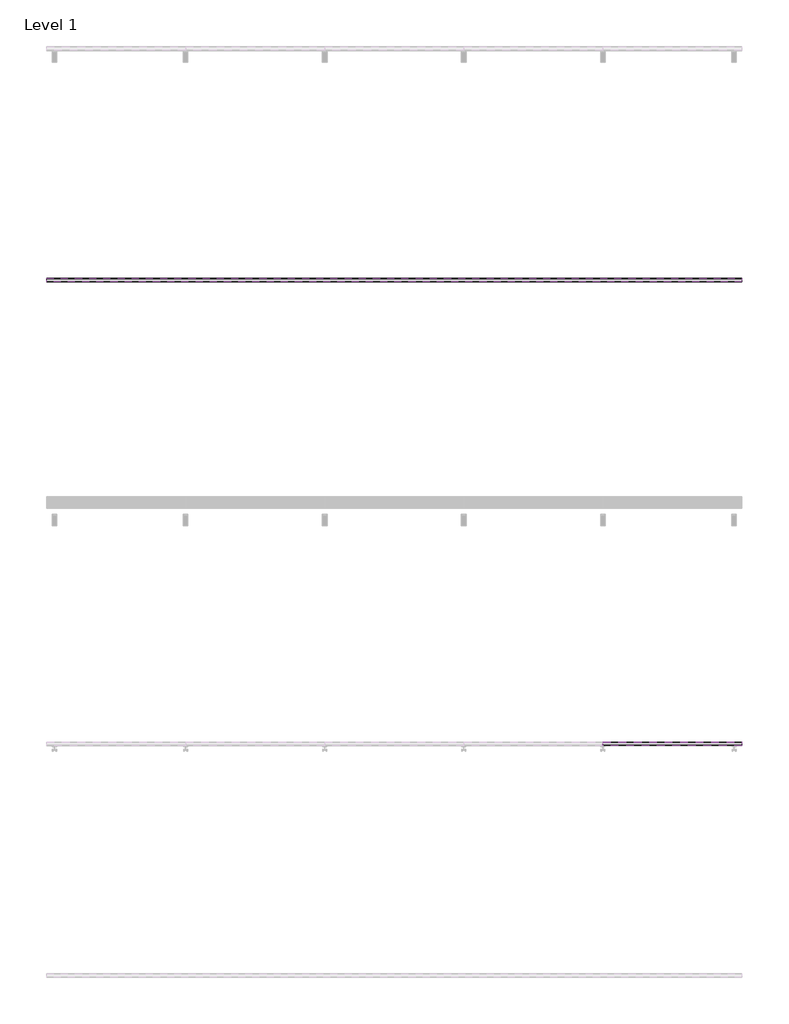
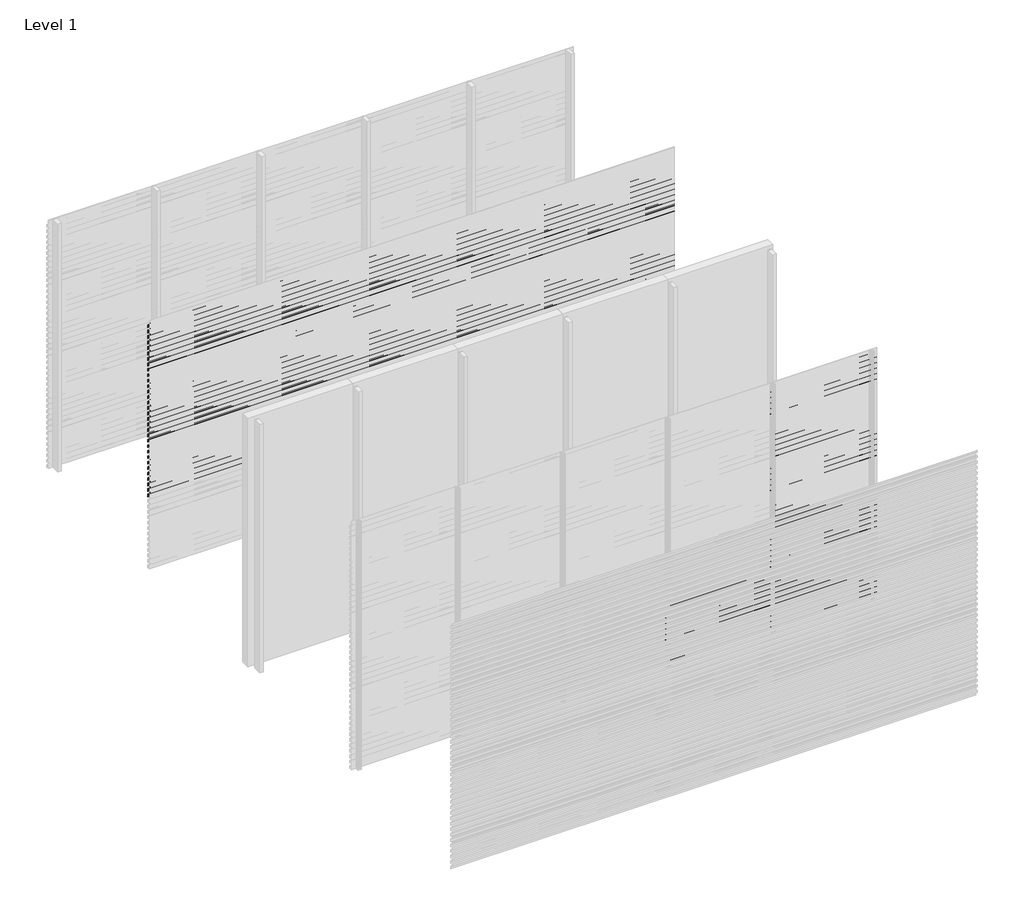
# One storey, part 12 of 33: 88 proxies.
"""IFC4 building model written with IfcOpenShell, lengths in millimetres."""

from ifc_helpers import new_model, si_unit, frame, origin, place, context, project, spatial, polyline, outline, extrude, element, save

model = new_model("IFC4")

# Units and contexts
model_context = context("Model", 3, world=origin())
ifc_project = project(units=[si_unit("LENGTHUNIT", "METRE", prefix="MILLI")], contexts=[model_context])

# Site, building, storey
site = spatial("IfcSite", under=ifc_project)
building = spatial("IfcBuilding", under=site)
storey = spatial("IfcBuildingStorey", under=building, Name="Level 1", Elevation=0.0)

# Proxies
placement = place(None, origin())
element("IfcBuildingElementProxy", 1, Name="Wall Sweeps", at=placement, inside=storey, context=model_context, shape_type="SweptSolid", body=[
    extrude(outline(polyline([(-37967.0, 2930.0), (-37967.0, 2897.0), (-37968.25, 2897.7216933), (-37968.25, 2929.2872415), (-37998.0, 2950.0588647), (-37998.0, 2970.0), (-37996.75, 2970.0), (-37996.75, 2950.7716232), (-37967.0, 2930.0)])), frame((0.0, 0.0, 0.0), z_axis=(1.0, 0.0, 0.0), x_axis=(0.0, 1.0, 0.0)), (0.0, 0.0, 1.0), 6000.0),
])
element("IfcBuildingElementProxy", 2, Name="Wall Sweeps", at=placement, inside=storey, context=model_context, shape_type="SweptSolid", body=[
    extrude(outline(polyline([(-37967.0, 2864.0), (-37967.0, 2831.0), (-37968.25, 2831.7216933), (-37968.25, 2863.2872415), (-37998.0, 2884.0588647), (-37998.0, 2904.0), (-37996.75, 2904.0), (-37996.75, 2884.7716232), (-37967.0, 2864.0)])), frame((0.0, 0.0, 0.0), z_axis=(1.0, 0.0, 0.0), x_axis=(0.0, 1.0, 0.0)), (0.0, 0.0, 1.0), 6000.0),
])
element("IfcBuildingElementProxy", 3, Name="Wall Sweeps", at=placement, inside=storey, context=model_context, shape_type="SweptSolid", body=[
    extrude(outline(polyline([(-37967.0, 2798.0), (-37967.0, 2765.0), (-37968.25, 2765.7216933), (-37968.25, 2797.2872415), (-37998.0, 2818.0588647), (-37998.0, 2838.0), (-37996.75, 2838.0), (-37996.75, 2818.7716232), (-37967.0, 2798.0)])), frame((0.0, 0.0, 0.0), z_axis=(1.0, 0.0, 0.0), x_axis=(0.0, 1.0, 0.0)), (0.0, 0.0, 1.0), 6000.0),
])
element("IfcBuildingElementProxy", 4, Name="Wall Sweeps", at=placement, inside=storey, context=model_context, shape_type="SweptSolid", body=[
    extrude(outline(polyline([(-37967.0, 2732.0), (-37967.0, 2699.0), (-37968.25, 2699.7216933), (-37968.25, 2731.2872415), (-37998.0, 2752.0588647), (-37998.0, 2772.0), (-37996.75, 2772.0), (-37996.75, 2752.7716232), (-37967.0, 2732.0)])), frame((0.0, 0.0, 0.0), z_axis=(1.0, 0.0, 0.0), x_axis=(0.0, 1.0, 0.0)), (0.0, 0.0, 1.0), 6000.0),
])
element("IfcBuildingElementProxy", 5, Name="Wall Sweeps", at=placement, inside=storey, context=model_context, shape_type="SweptSolid", body=[
    extrude(outline(polyline([(-37967.0, 2666.0), (-37967.0, 2633.0), (-37968.25, 2633.7216933), (-37968.25, 2665.2872415), (-37998.0, 2686.0588647), (-37998.0, 2706.0), (-37996.75, 2706.0), (-37996.75, 2686.7716232), (-37967.0, 2666.0)])), frame((0.0, 0.0, 0.0), z_axis=(1.0, 0.0, 0.0), x_axis=(0.0, 1.0, 0.0)), (0.0, 0.0, 1.0), 6000.0),
])
element("IfcBuildingElementProxy", 6, Name="Wall Sweeps", at=placement, inside=storey, context=model_context, shape_type="SweptSolid", body=[
    extrude(outline(polyline([(-37967.0, 2600.0), (-37967.0, 2567.0), (-37968.25, 2567.7216933), (-37968.25, 2599.2872415), (-37998.0, 2620.0588647), (-37998.0, 2640.0), (-37996.75, 2640.0), (-37996.75, 2620.7716232), (-37967.0, 2600.0)])), frame((0.0, 0.0, 0.0), z_axis=(1.0, 0.0, 0.0), x_axis=(0.0, 1.0, 0.0)), (0.0, 0.0, 1.0), 6000.0),
])
element("IfcBuildingElementProxy", 7, Name="Wall Sweeps", at=placement, inside=storey, context=model_context, shape_type="SweptSolid", body=[
    extrude(outline(polyline([(-37967.0, 2534.0), (-37967.0, 2501.0), (-37968.25, 2501.7216933), (-37968.25, 2533.2872415), (-37998.0, 2554.0588647), (-37998.0, 2574.0), (-37996.75, 2574.0), (-37996.75, 2554.7716232), (-37967.0, 2534.0)])), frame((0.0, 0.0, 0.0), z_axis=(1.0, 0.0, 0.0), x_axis=(0.0, 1.0, 0.0)), (0.0, 0.0, 1.0), 6000.0),
])
element("IfcBuildingElementProxy", 8, Name="Wall Sweeps", at=placement, inside=storey, context=model_context, shape_type="SweptSolid", body=[
    extrude(outline(polyline([(-37967.0, 2468.0), (-37967.0, 2435.0), (-37968.25, 2435.7216933), (-37968.25, 2467.2872415), (-37998.0, 2488.0588647), (-37998.0, 2508.0), (-37996.75, 2508.0), (-37996.75, 2488.7716232), (-37967.0, 2468.0)])), frame((0.0, 0.0, 0.0), z_axis=(1.0, 0.0, 0.0), x_axis=(0.0, 1.0, 0.0)), (0.0, 0.0, 1.0), 6000.0),
])
element("IfcBuildingElementProxy", 9, Name="Wall Sweeps", at=placement, inside=storey, context=model_context, shape_type="SweptSolid", body=[
    extrude(outline(polyline([(-37967.0, 2402.0), (-37967.0, 2369.0), (-37968.25, 2369.7216933), (-37968.25, 2401.2872415), (-37998.0, 2422.0588647), (-37998.0, 2442.0), (-37996.75, 2442.0), (-37996.75, 2422.7716232), (-37967.0, 2402.0)])), frame((0.0, 0.0, 0.0), z_axis=(1.0, 0.0, 0.0), x_axis=(0.0, 1.0, 0.0)), (0.0, 0.0, 1.0), 6000.0),
])
element("IfcBuildingElementProxy", 10, Name="Wall Sweeps", at=placement, inside=storey, context=model_context, shape_type="SweptSolid", body=[
    extrude(outline(polyline([(-37967.0, 2336.0), (-37967.0, 2303.0), (-37968.25, 2303.7216933), (-37968.25, 2335.2872415), (-37998.0, 2356.0588647), (-37998.0, 2376.0), (-37996.75, 2376.0), (-37996.75, 2356.7716232), (-37967.0, 2336.0)])), frame((0.0, 0.0, 0.0), z_axis=(1.0, 0.0, 0.0), x_axis=(0.0, 1.0, 0.0)), (0.0, 0.0, 1.0), 6000.0),
])
element("IfcBuildingElementProxy", 11, Name="Wall Sweeps", at=placement, inside=storey, context=model_context, shape_type="SweptSolid", body=[
    extrude(outline(polyline([(-37967.0, 2270.0), (-37967.0, 2237.0), (-37968.25, 2237.7216933), (-37968.25, 2269.2872415), (-37998.0, 2290.0588647), (-37998.0, 2310.0), (-37996.75, 2310.0), (-37996.75, 2290.7716232), (-37967.0, 2270.0)])), frame((0.0, 0.0, 0.0), z_axis=(1.0, 0.0, 0.0), x_axis=(0.0, 1.0, 0.0)), (0.0, 0.0, 1.0), 6000.0),
])
element("IfcBuildingElementProxy", 12, Name="Wall Sweeps", at=placement, inside=storey, context=model_context, shape_type="SweptSolid", body=[
    extrude(outline(polyline([(-37967.0, 2204.0), (-37967.0, 2171.0), (-37968.25, 2171.7216933), (-37968.25, 2203.2872415), (-37998.0, 2224.0588647), (-37998.0, 2244.0), (-37996.75, 2244.0), (-37996.75, 2224.7716232), (-37967.0, 2204.0)])), frame((0.0, 0.0, 0.0), z_axis=(1.0, 0.0, 0.0), x_axis=(0.0, 1.0, 0.0)), (0.0, 0.0, 1.0), 6000.0),
])
element("IfcBuildingElementProxy", 13, Name="Wall Sweeps", at=placement, inside=storey, context=model_context, shape_type="SweptSolid", body=[
    extrude(outline(polyline([(-37967.0, 2138.0), (-37967.0, 2105.0), (-37968.25, 2105.7216933), (-37968.25, 2137.2872415), (-37998.0, 2158.0588647), (-37998.0, 2178.0), (-37996.75, 2178.0), (-37996.75, 2158.7716232), (-37967.0, 2138.0)])), frame((0.0, 0.0, 0.0), z_axis=(1.0, 0.0, 0.0), x_axis=(0.0, 1.0, 0.0)), (0.0, 0.0, 1.0), 6000.0),
])
element("IfcBuildingElementProxy", 14, Name="Wall Sweeps", at=placement, inside=storey, context=model_context, shape_type="SweptSolid", body=[
    extrude(outline(polyline([(-37967.0, 2072.0), (-37967.0, 2039.0), (-37968.25, 2039.7216933), (-37968.25, 2071.2872415), (-37998.0, 2092.0588647), (-37998.0, 2112.0), (-37996.75, 2112.0), (-37996.75, 2092.7716232), (-37967.0, 2072.0)])), frame((0.0, 0.0, 0.0), z_axis=(1.0, 0.0, 0.0), x_axis=(0.0, 1.0, 0.0)), (0.0, 0.0, 1.0), 6000.0),
])
element("IfcBuildingElementProxy", 15, Name="Wall Sweeps", at=placement, inside=storey, context=model_context, shape_type="SweptSolid", body=[
    extrude(outline(polyline([(-37967.0, 2006.0), (-37967.0, 1973.0), (-37968.25, 1973.7216933), (-37968.25, 2005.2872415), (-37998.0, 2026.0588647), (-37998.0, 2046.0), (-37996.75, 2046.0), (-37996.75, 2026.7716232), (-37967.0, 2006.0)])), frame((0.0, 0.0, 0.0), z_axis=(1.0, 0.0, 0.0), x_axis=(0.0, 1.0, 0.0)), (0.0, 0.0, 1.0), 6000.0),
])
element("IfcBuildingElementProxy", 16, Name="Wall Sweeps", at=placement, inside=storey, context=model_context, shape_type="SweptSolid", body=[
    extrude(outline(polyline([(-37967.0, 1940.0), (-37967.0, 1907.0), (-37968.25, 1907.7216933), (-37968.25, 1939.2872415), (-37998.0, 1960.0588647), (-37998.0, 1980.0), (-37996.75, 1980.0), (-37996.75, 1960.7716232), (-37967.0, 1940.0)])), frame((0.0, 0.0, 0.0), z_axis=(1.0, 0.0, 0.0), x_axis=(0.0, 1.0, 0.0)), (0.0, 0.0, 1.0), 6000.0),
])
element("IfcBuildingElementProxy", 17, Name="Wall Sweeps", at=placement, inside=storey, context=model_context, shape_type="SweptSolid", body=[
    extrude(outline(polyline([(-37967.0, 1874.0), (-37967.0, 1841.0), (-37968.25, 1841.7216933), (-37968.25, 1873.2872415), (-37998.0, 1894.0588647), (-37998.0, 1914.0), (-37996.75, 1914.0), (-37996.75, 1894.7716232), (-37967.0, 1874.0)])), frame((0.0, 0.0, 0.0), z_axis=(1.0, 0.0, 0.0), x_axis=(0.0, 1.0, 0.0)), (0.0, 0.0, 1.0), 6000.0),
])
element("IfcBuildingElementProxy", 18, Name="Wall Sweeps", at=placement, inside=storey, context=model_context, shape_type="SweptSolid", body=[
    extrude(outline(polyline([(-37967.0, 1808.0), (-37967.0, 1775.0), (-37968.25, 1775.7216933), (-37968.25, 1807.2872415), (-37998.0, 1828.0588647), (-37998.0, 1848.0), (-37996.75, 1848.0), (-37996.75, 1828.7716232), (-37967.0, 1808.0)])), frame((0.0, 0.0, 0.0), z_axis=(1.0, 0.0, 0.0), x_axis=(0.0, 1.0, 0.0)), (0.0, 0.0, 1.0), 6000.0),
])
element("IfcBuildingElementProxy", 19, Name="Wall Sweeps", at=placement, inside=storey, context=model_context, shape_type="SweptSolid", body=[
    extrude(outline(polyline([(-37967.0, 1742.0), (-37967.0, 1709.0), (-37968.25, 1709.7216933), (-37968.25, 1741.2872415), (-37998.0, 1762.0588647), (-37998.0, 1782.0), (-37996.75, 1782.0), (-37996.75, 1762.7716232), (-37967.0, 1742.0)])), frame((0.0, 0.0, 0.0), z_axis=(1.0, 0.0, 0.0), x_axis=(0.0, 1.0, 0.0)), (0.0, 0.0, 1.0), 6000.0),
])
element("IfcBuildingElementProxy", 20, Name="Wall Sweeps", at=placement, inside=storey, context=model_context, shape_type="SweptSolid", body=[
    extrude(outline(polyline([(-37967.0, 1676.0), (-37967.0, 1643.0), (-37968.25, 1643.7216933), (-37968.25, 1675.2872415), (-37998.0, 1696.0588647), (-37998.0, 1716.0), (-37996.75, 1716.0), (-37996.75, 1696.7716232), (-37967.0, 1676.0)])), frame((0.0, 0.0, 0.0), z_axis=(1.0, 0.0, 0.0), x_axis=(0.0, 1.0, 0.0)), (0.0, 0.0, 1.0), 6000.0),
])
element("IfcBuildingElementProxy", 21, Name="Wall Sweeps", at=placement, inside=storey, context=model_context, shape_type="SweptSolid", body=[
    extrude(outline(polyline([(-37967.0, 1610.0), (-37967.0, 1577.0), (-37968.25, 1577.7216933), (-37968.25, 1609.2872415), (-37998.0, 1630.0588647), (-37998.0, 1650.0), (-37996.75, 1650.0), (-37996.75, 1630.7716232), (-37967.0, 1610.0)])), frame((0.0, 0.0, 0.0), z_axis=(1.0, 0.0, 0.0), x_axis=(0.0, 1.0, 0.0)), (0.0, 0.0, 1.0), 6000.0),
])
element("IfcBuildingElementProxy", 22, Name="Wall Sweeps", at=placement, inside=storey, context=model_context, shape_type="SweptSolid", body=[
    extrude(outline(polyline([(-37967.0, 1544.0), (-37967.0, 1511.0), (-37968.25, 1511.7216933), (-37968.25, 1543.2872415), (-37998.0, 1564.0588647), (-37998.0, 1584.0), (-37996.75, 1584.0), (-37996.75, 1564.7716232), (-37967.0, 1544.0)])), frame((0.0, 0.0, 0.0), z_axis=(1.0, 0.0, 0.0), x_axis=(0.0, 1.0, 0.0)), (0.0, 0.0, 1.0), 6000.0),
])
element("IfcBuildingElementProxy", 23, Name="Wall Sweeps", at=placement, inside=storey, context=model_context, shape_type="SweptSolid", body=[
    extrude(outline(polyline([(-37967.0, 1478.0), (-37967.0, 1445.0), (-37968.25, 1445.7216933), (-37968.25, 1477.2872415), (-37998.0, 1498.0588647), (-37998.0, 1518.0), (-37996.75, 1518.0), (-37996.75, 1498.7716232), (-37967.0, 1478.0)])), frame((0.0, 0.0, 0.0), z_axis=(1.0, 0.0, 0.0), x_axis=(0.0, 1.0, 0.0)), (0.0, 0.0, 1.0), 6000.0),
])
element("IfcBuildingElementProxy", 24, Name="Wall Sweeps", at=placement, inside=storey, context=model_context, shape_type="SweptSolid", body=[
    extrude(outline(polyline([(-37967.0, 1412.0), (-37967.0, 1379.0), (-37968.25, 1379.7216933), (-37968.25, 1411.2872415), (-37998.0, 1432.0588647), (-37998.0, 1452.0), (-37996.75, 1452.0), (-37996.75, 1432.7716232), (-37967.0, 1412.0)])), frame((0.0, 0.0, 0.0), z_axis=(1.0, 0.0, 0.0), x_axis=(0.0, 1.0, 0.0)), (0.0, 0.0, 1.0), 6000.0),
])
element("IfcBuildingElementProxy", 25, Name="Wall Sweeps", at=placement, inside=storey, context=model_context, shape_type="SweptSolid", body=[
    extrude(outline(polyline([(-37967.0, 1346.0), (-37967.0, 1313.0), (-37968.25, 1313.7216933), (-37968.25, 1345.2872415), (-37998.0, 1366.0588647), (-37998.0, 1386.0), (-37996.75, 1386.0), (-37996.75, 1366.7716232), (-37967.0, 1346.0)])), frame((0.0, 0.0, 0.0), z_axis=(1.0, 0.0, 0.0), x_axis=(0.0, 1.0, 0.0)), (0.0, 0.0, 1.0), 6000.0),
])
element("IfcBuildingElementProxy", 26, Name="Wall Sweeps", at=placement, inside=storey, context=model_context, shape_type="SweptSolid", body=[
    extrude(outline(polyline([(-37967.0, 1280.0), (-37967.0, 1247.0), (-37968.25, 1247.7216933), (-37968.25, 1279.2872415), (-37998.0, 1300.0588647), (-37998.0, 1320.0), (-37996.75, 1320.0), (-37996.75, 1300.7716232), (-37967.0, 1280.0)])), frame((0.0, 0.0, 0.0), z_axis=(1.0, 0.0, 0.0), x_axis=(0.0, 1.0, 0.0)), (0.0, 0.0, 1.0), 6000.0),
])
element("IfcBuildingElementProxy", 27, Name="Wall Sweeps", at=placement, inside=storey, context=model_context, shape_type="SweptSolid", body=[
    extrude(outline(polyline([(-37967.0, 1214.0), (-37967.0, 1181.0), (-37968.25, 1181.7216933), (-37968.25, 1213.2872415), (-37998.0, 1234.0588647), (-37998.0, 1254.0), (-37996.75, 1254.0), (-37996.75, 1234.7716232), (-37967.0, 1214.0)])), frame((0.0, 0.0, 0.0), z_axis=(1.0, 0.0, 0.0), x_axis=(0.0, 1.0, 0.0)), (0.0, 0.0, 1.0), 6000.0),
])
element("IfcBuildingElementProxy", 28, Name="Wall Sweeps", at=placement, inside=storey, context=model_context, shape_type="SweptSolid", body=[
    extrude(outline(polyline([(-37967.0, 1148.0), (-37967.0, 1115.0), (-37968.25, 1115.7216933), (-37968.25, 1147.2872415), (-37998.0, 1168.0588647), (-37998.0, 1188.0), (-37996.75, 1188.0), (-37996.75, 1168.7716232), (-37967.0, 1148.0)])), frame((0.0, 0.0, 0.0), z_axis=(1.0, 0.0, 0.0), x_axis=(0.0, 1.0, 0.0)), (0.0, 0.0, 1.0), 6000.0),
])
element("IfcBuildingElementProxy", 29, Name="Wall Sweeps", at=placement, inside=storey, context=model_context, shape_type="SweptSolid", body=[
    extrude(outline(polyline([(-37967.0, 1082.0), (-37967.0, 1049.0), (-37968.25, 1049.7216933), (-37968.25, 1081.2872415), (-37998.0, 1102.0588647), (-37998.0, 1122.0), (-37996.75, 1122.0), (-37996.75, 1102.7716232), (-37967.0, 1082.0)])), frame((0.0, 0.0, 0.0), z_axis=(1.0, 0.0, 0.0), x_axis=(0.0, 1.0, 0.0)), (0.0, 0.0, 1.0), 6000.0),
])
element("IfcBuildingElementProxy", 30, Name="Wall Sweeps", at=placement, inside=storey, context=model_context, shape_type="SweptSolid", body=[
    extrude(outline(polyline([(-37967.0, 1016.0), (-37967.0, 983.0), (-37968.25, 983.7216933), (-37968.25, 1015.2872415), (-37998.0, 1036.0588647), (-37998.0, 1056.0), (-37996.75, 1056.0), (-37996.75, 1036.7716232), (-37967.0, 1016.0)])), frame((0.0, 0.0, 0.0), z_axis=(1.0, 0.0, 0.0), x_axis=(0.0, 1.0, 0.0)), (0.0, 0.0, 1.0), 6000.0),
])
element("IfcBuildingElementProxy", 31, Name="Wall Sweeps", at=placement, inside=storey, context=model_context, shape_type="SweptSolid", body=[
    extrude(outline(polyline([(-37967.0, 950.0), (-37967.0, 917.0), (-37968.25, 917.7216933), (-37968.25, 949.2872415), (-37998.0, 970.0588647), (-37998.0, 990.0), (-37996.75, 990.0), (-37996.75, 970.7716232), (-37967.0, 950.0)])), frame((0.0, 0.0, 0.0), z_axis=(1.0, 0.0, 0.0), x_axis=(0.0, 1.0, 0.0)), (0.0, 0.0, 1.0), 6000.0),
])
element("IfcBuildingElementProxy", 32, Name="Wall Sweeps", at=placement, inside=storey, context=model_context, shape_type="SweptSolid", body=[
    extrude(outline(polyline([(-37967.0, 884.0), (-37967.0, 851.0), (-37968.25, 851.7216933), (-37968.25, 883.2872415), (-37998.0, 904.0588647), (-37998.0, 924.0), (-37996.75, 924.0), (-37996.75, 904.7716232), (-37967.0, 884.0)])), frame((0.0, 0.0, 0.0), z_axis=(1.0, 0.0, 0.0), x_axis=(0.0, 1.0, 0.0)), (0.0, 0.0, 1.0), 6000.0),
])
element("IfcBuildingElementProxy", 33, Name="Wall Sweeps", at=placement, inside=storey, context=model_context, shape_type="SweptSolid", body=[
    extrude(outline(polyline([(-41967.0, 686.0), (-41967.0, 653.0), (-41968.25, 653.7216933), (-41968.25, 685.2872415), (-41998.0, 706.0588647), (-41998.0, 726.0), (-41996.75, 726.0), (-41996.75, 706.7716232), (-41967.0, 686.0)])), frame((3600.0, 0.0, 0.0), z_axis=(1.0, 0.0, 0.0), x_axis=(0.0, 1.0, 0.0)), (0.0, 0.0, 1.0), 1200.0),
])
element("IfcBuildingElementProxy", 34, Name="Wall Sweeps", at=placement, inside=storey, context=model_context, shape_type="SweptSolid", body=[
    extrude(outline(polyline([(-41967.0, 620.0), (-41967.0, 587.0), (-41968.25, 587.7216933), (-41968.25, 619.2872415), (-41998.0, 640.0588647), (-41998.0, 660.0), (-41996.75, 660.0), (-41996.75, 640.7716232), (-41967.0, 620.0)])), frame((3600.0, 0.0, 0.0), z_axis=(1.0, 0.0, 0.0), x_axis=(0.0, 1.0, 0.0)), (0.0, 0.0, 1.0), 1200.0),
])
element("IfcBuildingElementProxy", 35, Name="Wall Sweeps", at=placement, inside=storey, context=model_context, shape_type="SweptSolid", body=[
    extrude(outline(polyline([(-41967.0, 554.0), (-41967.0, 521.0), (-41968.25, 521.7216933), (-41968.25, 553.2872415), (-41998.0, 574.0588647), (-41998.0, 594.0), (-41996.75, 594.0), (-41996.75, 574.7716232), (-41967.0, 554.0)])), frame((3600.0, 0.0, 0.0), z_axis=(1.0, 0.0, 0.0), x_axis=(0.0, 1.0, 0.0)), (0.0, 0.0, 1.0), 1200.0),
])
element("IfcBuildingElementProxy", 36, Name="Wall Sweeps", at=placement, inside=storey, context=model_context, shape_type="SweptSolid", body=[
    extrude(outline(polyline([(-41967.0, 488.0), (-41967.0, 455.0), (-41968.25, 455.7216933), (-41968.25, 487.2872415), (-41998.0, 508.0588647), (-41998.0, 528.0), (-41996.75, 528.0), (-41996.75, 508.7716232), (-41967.0, 488.0)])), frame((3600.0, 0.0, 0.0), z_axis=(1.0, 0.0, 0.0), x_axis=(0.0, 1.0, 0.0)), (0.0, 0.0, 1.0), 1200.0),
])
element("IfcBuildingElementProxy", 37, Name="Wall Sweeps", at=placement, inside=storey, context=model_context, shape_type="SweptSolid", body=[
    extrude(outline(polyline([(-41967.0, 422.0), (-41967.0, 389.0), (-41968.25, 389.7216933), (-41968.25, 421.2872415), (-41998.0, 442.0588647), (-41998.0, 462.0), (-41996.75, 462.0), (-41996.75, 442.7716232), (-41967.0, 422.0)])), frame((3600.0, 0.0, 0.0), z_axis=(1.0, 0.0, 0.0), x_axis=(0.0, 1.0, 0.0)), (0.0, 0.0, 1.0), 1200.0),
])
element("IfcBuildingElementProxy", 38, Name="Wall Sweeps", at=placement, inside=storey, context=model_context, shape_type="SweptSolid", body=[
    extrude(outline(polyline([(-41967.0, 356.0), (-41967.0, 323.0), (-41968.25, 323.7216933), (-41968.25, 355.2872415), (-41998.0, 376.0588647), (-41998.0, 396.0), (-41996.75, 396.0), (-41996.75, 376.7716232), (-41967.0, 356.0)])), frame((3600.0, 0.0, 0.0), z_axis=(1.0, 0.0, 0.0), x_axis=(0.0, 1.0, 0.0)), (0.0, 0.0, 1.0), 1200.0),
])
element("IfcBuildingElementProxy", 39, Name="Wall Sweeps", at=placement, inside=storey, context=model_context, shape_type="SweptSolid", body=[
    extrude(outline(polyline([(-41967.0, 290.0), (-41967.0, 257.0), (-41968.25, 257.7216933), (-41968.25, 289.2872415), (-41998.0, 310.0588647), (-41998.0, 330.0), (-41996.75, 330.0), (-41996.75, 310.7716232), (-41967.0, 290.0)])), frame((3600.0, 0.0, 0.0), z_axis=(1.0, 0.0, 0.0), x_axis=(0.0, 1.0, 0.0)), (0.0, 0.0, 1.0), 1200.0),
])
element("IfcBuildingElementProxy", 40, Name="Wall Sweeps", at=placement, inside=storey, context=model_context, shape_type="SweptSolid", body=[
    extrude(outline(polyline([(-41967.0, 224.0), (-41967.0, 191.0), (-41968.25, 191.7216933), (-41968.25, 223.2872415), (-41998.0, 244.0588647), (-41998.0, 264.0), (-41996.75, 264.0), (-41996.75, 244.7716232), (-41967.0, 224.0)])), frame((3600.0, 0.0, 0.0), z_axis=(1.0, 0.0, 0.0), x_axis=(0.0, 1.0, 0.0)), (0.0, 0.0, 1.0), 1200.0),
])
element("IfcBuildingElementProxy", 41, Name="Wall Sweeps", at=placement, inside=storey, context=model_context, shape_type="SweptSolid", body=[
    extrude(outline(polyline([(-41967.0, 158.0), (-41967.0, 125.0), (-41968.25, 125.7216933), (-41968.25, 157.2872415), (-41998.0, 178.0588647), (-41998.0, 198.0), (-41996.75, 198.0), (-41996.75, 178.7716232), (-41967.0, 158.0)])), frame((3600.0, 0.0, 0.0), z_axis=(1.0, 0.0, 0.0), x_axis=(0.0, 1.0, 0.0)), (0.0, 0.0, 1.0), 1200.0),
])
element("IfcBuildingElementProxy", 42, Name="Wall Sweeps", at=placement, inside=storey, context=model_context, shape_type="SweptSolid", body=[
    extrude(outline(polyline([(-41967.0, 92.0), (-41967.0, 59.0), (-41968.25, 59.7216933), (-41968.25, 91.2872415), (-41998.0, 112.0588647), (-41998.0, 132.0), (-41996.75, 132.0), (-41996.75, 112.7716232), (-41967.0, 92.0)])), frame((3600.0, 0.0, 0.0), z_axis=(1.0, 0.0, 0.0), x_axis=(0.0, 1.0, 0.0)), (0.0, 0.0, 1.0), 1200.0),
])
element("IfcBuildingElementProxy", 43, Name="Wall Sweeps", at=placement, inside=storey, context=model_context, shape_type="SweptSolid", body=[
    extrude(outline(polyline([(-41967.0, 26.0), (-41967.0, -7.0), (-41968.25, -6.2783067), (-41968.25, 25.2872415), (-41998.0, 46.0588647), (-41998.0, 66.0), (-41996.75, 66.0), (-41996.75, 46.7716232), (-41967.0, 26.0)])), frame((3600.0, 0.0, 0.0), z_axis=(1.0, 0.0, 0.0), x_axis=(0.0, 1.0, 0.0)), (0.0, 0.0, 1.0), 1200.0),
])
element("IfcBuildingElementProxy", 44, Name="Wall Sweeps", at=placement, inside=storey, context=model_context, shape_type="SweptSolid", body=[
    extrude(outline(polyline([(-41967.0, 2930.0), (-41967.0, 2897.0), (-41968.25, 2897.7216933), (-41968.25, 2929.2872415), (-41998.0, 2950.0588647), (-41998.0, 2970.0), (-41996.75, 2970.0), (-41996.75, 2950.7716232), (-41967.0, 2930.0)])), frame((4800.0, 0.0, 0.0), z_axis=(1.0, 0.0, 0.0), x_axis=(0.0, 1.0, 0.0)), (0.0, 0.0, 1.0), 1200.0),
])
element("IfcBuildingElementProxy", 45, Name="Wall Sweeps", at=placement, inside=storey, context=model_context, shape_type="SweptSolid", body=[
    extrude(outline(polyline([(-41967.0, 2864.0), (-41967.0, 2831.0), (-41968.25, 2831.7216933), (-41968.25, 2863.2872415), (-41998.0, 2884.0588647), (-41998.0, 2904.0), (-41996.75, 2904.0), (-41996.75, 2884.7716232), (-41967.0, 2864.0)])), frame((4800.0, 0.0, 0.0), z_axis=(1.0, 0.0, 0.0), x_axis=(0.0, 1.0, 0.0)), (0.0, 0.0, 1.0), 1200.0),
])
element("IfcBuildingElementProxy", 46, Name="Wall Sweeps", at=placement, inside=storey, context=model_context, shape_type="SweptSolid", body=[
    extrude(outline(polyline([(-41967.0, 2798.0), (-41967.0, 2765.0), (-41968.25, 2765.7216933), (-41968.25, 2797.2872415), (-41998.0, 2818.0588647), (-41998.0, 2838.0), (-41996.75, 2838.0), (-41996.75, 2818.7716232), (-41967.0, 2798.0)])), frame((4800.0, 0.0, 0.0), z_axis=(1.0, 0.0, 0.0), x_axis=(0.0, 1.0, 0.0)), (0.0, 0.0, 1.0), 1200.0),
])
element("IfcBuildingElementProxy", 47, Name="Wall Sweeps", at=placement, inside=storey, context=model_context, shape_type="SweptSolid", body=[
    extrude(outline(polyline([(-41967.0, 2732.0), (-41967.0, 2699.0), (-41968.25, 2699.7216933), (-41968.25, 2731.2872415), (-41998.0, 2752.0588647), (-41998.0, 2772.0), (-41996.75, 2772.0), (-41996.75, 2752.7716232), (-41967.0, 2732.0)])), frame((4800.0, 0.0, 0.0), z_axis=(1.0, 0.0, 0.0), x_axis=(0.0, 1.0, 0.0)), (0.0, 0.0, 1.0), 1200.0),
])
element("IfcBuildingElementProxy", 48, Name="Wall Sweeps", at=placement, inside=storey, context=model_context, shape_type="SweptSolid", body=[
    extrude(outline(polyline([(-41967.0, 2666.0), (-41967.0, 2633.0), (-41968.25, 2633.7216933), (-41968.25, 2665.2872415), (-41998.0, 2686.0588647), (-41998.0, 2706.0), (-41996.75, 2706.0), (-41996.75, 2686.7716232), (-41967.0, 2666.0)])), frame((4800.0, 0.0, 0.0), z_axis=(1.0, 0.0, 0.0), x_axis=(0.0, 1.0, 0.0)), (0.0, 0.0, 1.0), 1200.0),
])
element("IfcBuildingElementProxy", 49, Name="Wall Sweeps", at=placement, inside=storey, context=model_context, shape_type="SweptSolid", body=[
    extrude(outline(polyline([(-41967.0, 2600.0), (-41967.0, 2567.0), (-41968.25, 2567.7216933), (-41968.25, 2599.2872415), (-41998.0, 2620.0588647), (-41998.0, 2640.0), (-41996.75, 2640.0), (-41996.75, 2620.7716232), (-41967.0, 2600.0)])), frame((4800.0, 0.0, 0.0), z_axis=(1.0, 0.0, 0.0), x_axis=(0.0, 1.0, 0.0)), (0.0, 0.0, 1.0), 1200.0),
])
element("IfcBuildingElementProxy", 50, Name="Wall Sweeps", at=placement, inside=storey, context=model_context, shape_type="SweptSolid", body=[
    extrude(outline(polyline([(-41967.0, 2534.0), (-41967.0, 2501.0), (-41968.25, 2501.7216933), (-41968.25, 2533.2872415), (-41998.0, 2554.0588647), (-41998.0, 2574.0), (-41996.75, 2574.0), (-41996.75, 2554.7716232), (-41967.0, 2534.0)])), frame((4800.0, 0.0, 0.0), z_axis=(1.0, 0.0, 0.0), x_axis=(0.0, 1.0, 0.0)), (0.0, 0.0, 1.0), 1200.0),
])
element("IfcBuildingElementProxy", 51, Name="Wall Sweeps", at=placement, inside=storey, context=model_context, shape_type="SweptSolid", body=[
    extrude(outline(polyline([(-41967.0, 2468.0), (-41967.0, 2435.0), (-41968.25, 2435.7216933), (-41968.25, 2467.2872415), (-41998.0, 2488.0588647), (-41998.0, 2508.0), (-41996.75, 2508.0), (-41996.75, 2488.7716232), (-41967.0, 2468.0)])), frame((4800.0, 0.0, 0.0), z_axis=(1.0, 0.0, 0.0), x_axis=(0.0, 1.0, 0.0)), (0.0, 0.0, 1.0), 1200.0),
])
element("IfcBuildingElementProxy", 52, Name="Wall Sweeps", at=placement, inside=storey, context=model_context, shape_type="SweptSolid", body=[
    extrude(outline(polyline([(-41967.0, 2402.0), (-41967.0, 2369.0), (-41968.25, 2369.7216933), (-41968.25, 2401.2872415), (-41998.0, 2422.0588647), (-41998.0, 2442.0), (-41996.75, 2442.0), (-41996.75, 2422.7716232), (-41967.0, 2402.0)])), frame((4800.0, 0.0, 0.0), z_axis=(1.0, 0.0, 0.0), x_axis=(0.0, 1.0, 0.0)), (0.0, 0.0, 1.0), 1200.0),
])
element("IfcBuildingElementProxy", 53, Name="Wall Sweeps", at=placement, inside=storey, context=model_context, shape_type="SweptSolid", body=[
    extrude(outline(polyline([(-41967.0, 2336.0), (-41967.0, 2303.0), (-41968.25, 2303.7216933), (-41968.25, 2335.2872415), (-41998.0, 2356.0588647), (-41998.0, 2376.0), (-41996.75, 2376.0), (-41996.75, 2356.7716232), (-41967.0, 2336.0)])), frame((4800.0, 0.0, 0.0), z_axis=(1.0, 0.0, 0.0), x_axis=(0.0, 1.0, 0.0)), (0.0, 0.0, 1.0), 1200.0),
])
element("IfcBuildingElementProxy", 54, Name="Wall Sweeps", at=placement, inside=storey, context=model_context, shape_type="SweptSolid", body=[
    extrude(outline(polyline([(-41967.0, 2270.0), (-41967.0, 2237.0), (-41968.25, 2237.7216933), (-41968.25, 2269.2872415), (-41998.0, 2290.0588647), (-41998.0, 2310.0), (-41996.75, 2310.0), (-41996.75, 2290.7716232), (-41967.0, 2270.0)])), frame((4800.0, 0.0, 0.0), z_axis=(1.0, 0.0, 0.0), x_axis=(0.0, 1.0, 0.0)), (0.0, 0.0, 1.0), 1200.0),
])
element("IfcBuildingElementProxy", 55, Name="Wall Sweeps", at=placement, inside=storey, context=model_context, shape_type="SweptSolid", body=[
    extrude(outline(polyline([(-41967.0, 2204.0), (-41967.0, 2171.0), (-41968.25, 2171.7216933), (-41968.25, 2203.2872415), (-41998.0, 2224.0588647), (-41998.0, 2244.0), (-41996.75, 2244.0), (-41996.75, 2224.7716232), (-41967.0, 2204.0)])), frame((4800.0, 0.0, 0.0), z_axis=(1.0, 0.0, 0.0), x_axis=(0.0, 1.0, 0.0)), (0.0, 0.0, 1.0), 1200.0),
])
element("IfcBuildingElementProxy", 56, Name="Wall Sweeps", at=placement, inside=storey, context=model_context, shape_type="SweptSolid", body=[
    extrude(outline(polyline([(-41967.0, 2138.0), (-41967.0, 2105.0), (-41968.25, 2105.7216933), (-41968.25, 2137.2872415), (-41998.0, 2158.0588647), (-41998.0, 2178.0), (-41996.75, 2178.0), (-41996.75, 2158.7716232), (-41967.0, 2138.0)])), frame((4800.0, 0.0, 0.0), z_axis=(1.0, 0.0, 0.0), x_axis=(0.0, 1.0, 0.0)), (0.0, 0.0, 1.0), 1200.0),
])
element("IfcBuildingElementProxy", 57, Name="Wall Sweeps", at=placement, inside=storey, context=model_context, shape_type="SweptSolid", body=[
    extrude(outline(polyline([(-41967.0, 2072.0), (-41967.0, 2039.0), (-41968.25, 2039.7216933), (-41968.25, 2071.2872415), (-41998.0, 2092.0588647), (-41998.0, 2112.0), (-41996.75, 2112.0), (-41996.75, 2092.7716232), (-41967.0, 2072.0)])), frame((4800.0, 0.0, 0.0), z_axis=(1.0, 0.0, 0.0), x_axis=(0.0, 1.0, 0.0)), (0.0, 0.0, 1.0), 1200.0),
])
element("IfcBuildingElementProxy", 58, Name="Wall Sweeps", at=placement, inside=storey, context=model_context, shape_type="SweptSolid", body=[
    extrude(outline(polyline([(-41967.0, 2006.0), (-41967.0, 1973.0), (-41968.25, 1973.7216933), (-41968.25, 2005.2872415), (-41998.0, 2026.0588647), (-41998.0, 2046.0), (-41996.75, 2046.0), (-41996.75, 2026.7716232), (-41967.0, 2006.0)])), frame((4800.0, 0.0, 0.0), z_axis=(1.0, 0.0, 0.0), x_axis=(0.0, 1.0, 0.0)), (0.0, 0.0, 1.0), 1200.0),
])
element("IfcBuildingElementProxy", 59, Name="Wall Sweeps", at=placement, inside=storey, context=model_context, shape_type="SweptSolid", body=[
    extrude(outline(polyline([(-41967.0, 1940.0), (-41967.0, 1907.0), (-41968.25, 1907.7216933), (-41968.25, 1939.2872415), (-41998.0, 1960.0588647), (-41998.0, 1980.0), (-41996.75, 1980.0), (-41996.75, 1960.7716232), (-41967.0, 1940.0)])), frame((4800.0, 0.0, 0.0), z_axis=(1.0, 0.0, 0.0), x_axis=(0.0, 1.0, 0.0)), (0.0, 0.0, 1.0), 1200.0),
])
element("IfcBuildingElementProxy", 60, Name="Wall Sweeps", at=placement, inside=storey, context=model_context, shape_type="SweptSolid", body=[
    extrude(outline(polyline([(-41967.0, 1874.0), (-41967.0, 1841.0), (-41968.25, 1841.7216933), (-41968.25, 1873.2872415), (-41998.0, 1894.0588647), (-41998.0, 1914.0), (-41996.75, 1914.0), (-41996.75, 1894.7716232), (-41967.0, 1874.0)])), frame((4800.0, 0.0, 0.0), z_axis=(1.0, 0.0, 0.0), x_axis=(0.0, 1.0, 0.0)), (0.0, 0.0, 1.0), 1200.0),
])
element("IfcBuildingElementProxy", 61, Name="Wall Sweeps", at=placement, inside=storey, context=model_context, shape_type="SweptSolid", body=[
    extrude(outline(polyline([(-41967.0, 1808.0), (-41967.0, 1775.0), (-41968.25, 1775.7216933), (-41968.25, 1807.2872415), (-41998.0, 1828.0588647), (-41998.0, 1848.0), (-41996.75, 1848.0), (-41996.75, 1828.7716232), (-41967.0, 1808.0)])), frame((4800.0, 0.0, 0.0), z_axis=(1.0, 0.0, 0.0), x_axis=(0.0, 1.0, 0.0)), (0.0, 0.0, 1.0), 1200.0),
])
element("IfcBuildingElementProxy", 62, Name="Wall Sweeps", at=placement, inside=storey, context=model_context, shape_type="SweptSolid", body=[
    extrude(outline(polyline([(-41967.0, 1742.0), (-41967.0, 1709.0), (-41968.25, 1709.7216933), (-41968.25, 1741.2872415), (-41998.0, 1762.0588647), (-41998.0, 1782.0), (-41996.75, 1782.0), (-41996.75, 1762.7716232), (-41967.0, 1742.0)])), frame((4800.0, 0.0, 0.0), z_axis=(1.0, 0.0, 0.0), x_axis=(0.0, 1.0, 0.0)), (0.0, 0.0, 1.0), 1200.0),
])
element("IfcBuildingElementProxy", 63, Name="Wall Sweeps", at=placement, inside=storey, context=model_context, shape_type="SweptSolid", body=[
    extrude(outline(polyline([(-41967.0, 1676.0), (-41967.0, 1643.0), (-41968.25, 1643.7216933), (-41968.25, 1675.2872415), (-41998.0, 1696.0588647), (-41998.0, 1716.0), (-41996.75, 1716.0), (-41996.75, 1696.7716232), (-41967.0, 1676.0)])), frame((4800.0, 0.0, 0.0), z_axis=(1.0, 0.0, 0.0), x_axis=(0.0, 1.0, 0.0)), (0.0, 0.0, 1.0), 1200.0),
])
element("IfcBuildingElementProxy", 64, Name="Wall Sweeps", at=placement, inside=storey, context=model_context, shape_type="SweptSolid", body=[
    extrude(outline(polyline([(-41967.0, 1610.0), (-41967.0, 1577.0), (-41968.25, 1577.7216933), (-41968.25, 1609.2872415), (-41998.0, 1630.0588647), (-41998.0, 1650.0), (-41996.75, 1650.0), (-41996.75, 1630.7716232), (-41967.0, 1610.0)])), frame((4800.0, 0.0, 0.0), z_axis=(1.0, 0.0, 0.0), x_axis=(0.0, 1.0, 0.0)), (0.0, 0.0, 1.0), 1200.0),
])
element("IfcBuildingElementProxy", 65, Name="Wall Sweeps", at=placement, inside=storey, context=model_context, shape_type="SweptSolid", body=[
    extrude(outline(polyline([(-41967.0, 1544.0), (-41967.0, 1511.0), (-41968.25, 1511.7216933), (-41968.25, 1543.2872415), (-41998.0, 1564.0588647), (-41998.0, 1584.0), (-41996.75, 1584.0), (-41996.75, 1564.7716232), (-41967.0, 1544.0)])), frame((4800.0, 0.0, 0.0), z_axis=(1.0, 0.0, 0.0), x_axis=(0.0, 1.0, 0.0)), (0.0, 0.0, 1.0), 1200.0),
])
element("IfcBuildingElementProxy", 66, Name="Wall Sweeps", at=placement, inside=storey, context=model_context, shape_type="SweptSolid", body=[
    extrude(outline(polyline([(-41967.0, 1478.0), (-41967.0, 1445.0), (-41968.25, 1445.7216933), (-41968.25, 1477.2872415), (-41998.0, 1498.0588647), (-41998.0, 1518.0), (-41996.75, 1518.0), (-41996.75, 1498.7716232), (-41967.0, 1478.0)])), frame((4800.0, 0.0, 0.0), z_axis=(1.0, 0.0, 0.0), x_axis=(0.0, 1.0, 0.0)), (0.0, 0.0, 1.0), 1200.0),
])
element("IfcBuildingElementProxy", 67, Name="Wall Sweeps", at=placement, inside=storey, context=model_context, shape_type="SweptSolid", body=[
    extrude(outline(polyline([(-41967.0, 1412.0), (-41967.0, 1379.0), (-41968.25, 1379.7216933), (-41968.25, 1411.2872415), (-41998.0, 1432.0588647), (-41998.0, 1452.0), (-41996.75, 1452.0), (-41996.75, 1432.7716232), (-41967.0, 1412.0)])), frame((4800.0, 0.0, 0.0), z_axis=(1.0, 0.0, 0.0), x_axis=(0.0, 1.0, 0.0)), (0.0, 0.0, 1.0), 1200.0),
])
element("IfcBuildingElementProxy", 68, Name="Wall Sweeps", at=placement, inside=storey, context=model_context, shape_type="SweptSolid", body=[
    extrude(outline(polyline([(-41967.0, 1346.0), (-41967.0, 1313.0), (-41968.25, 1313.7216933), (-41968.25, 1345.2872415), (-41998.0, 1366.0588647), (-41998.0, 1386.0), (-41996.75, 1386.0), (-41996.75, 1366.7716232), (-41967.0, 1346.0)])), frame((4800.0, 0.0, 0.0), z_axis=(1.0, 0.0, 0.0), x_axis=(0.0, 1.0, 0.0)), (0.0, 0.0, 1.0), 1200.0),
])
element("IfcBuildingElementProxy", 69, Name="Wall Sweeps", at=placement, inside=storey, context=model_context, shape_type="SweptSolid", body=[
    extrude(outline(polyline([(-41967.0, 1280.0), (-41967.0, 1247.0), (-41968.25, 1247.7216933), (-41968.25, 1279.2872415), (-41998.0, 1300.0588647), (-41998.0, 1320.0), (-41996.75, 1320.0), (-41996.75, 1300.7716232), (-41967.0, 1280.0)])), frame((4800.0, 0.0, 0.0), z_axis=(1.0, 0.0, 0.0), x_axis=(0.0, 1.0, 0.0)), (0.0, 0.0, 1.0), 1200.0),
])
element("IfcBuildingElementProxy", 70, Name="Wall Sweeps", at=placement, inside=storey, context=model_context, shape_type="SweptSolid", body=[
    extrude(outline(polyline([(-41967.0, 1214.0), (-41967.0, 1181.0), (-41968.25, 1181.7216933), (-41968.25, 1213.2872415), (-41998.0, 1234.0588647), (-41998.0, 1254.0), (-41996.75, 1254.0), (-41996.75, 1234.7716232), (-41967.0, 1214.0)])), frame((4800.0, 0.0, 0.0), z_axis=(1.0, 0.0, 0.0), x_axis=(0.0, 1.0, 0.0)), (0.0, 0.0, 1.0), 1200.0),
])
element("IfcBuildingElementProxy", 71, Name="Wall Sweeps", at=placement, inside=storey, context=model_context, shape_type="SweptSolid", body=[
    extrude(outline(polyline([(-41967.0, 1148.0), (-41967.0, 1115.0), (-41968.25, 1115.7216933), (-41968.25, 1147.2872415), (-41998.0, 1168.0588647), (-41998.0, 1188.0), (-41996.75, 1188.0), (-41996.75, 1168.7716232), (-41967.0, 1148.0)])), frame((4800.0, 0.0, 0.0), z_axis=(1.0, 0.0, 0.0), x_axis=(0.0, 1.0, 0.0)), (0.0, 0.0, 1.0), 1200.0),
])
element("IfcBuildingElementProxy", 72, Name="Wall Sweeps", at=placement, inside=storey, context=model_context, shape_type="SweptSolid", body=[
    extrude(outline(polyline([(-41967.0, 1082.0), (-41967.0, 1049.0), (-41968.25, 1049.7216933), (-41968.25, 1081.2872415), (-41998.0, 1102.0588647), (-41998.0, 1122.0), (-41996.75, 1122.0), (-41996.75, 1102.7716232), (-41967.0, 1082.0)])), frame((4800.0, 0.0, 0.0), z_axis=(1.0, 0.0, 0.0), x_axis=(0.0, 1.0, 0.0)), (0.0, 0.0, 1.0), 1200.0),
])
element("IfcBuildingElementProxy", 73, Name="Wall Sweeps", at=placement, inside=storey, context=model_context, shape_type="SweptSolid", body=[
    extrude(outline(polyline([(-41967.0, 1016.0), (-41967.0, 983.0), (-41968.25, 983.7216933), (-41968.25, 1015.2872415), (-41998.0, 1036.0588647), (-41998.0, 1056.0), (-41996.75, 1056.0), (-41996.75, 1036.7716232), (-41967.0, 1016.0)])), frame((4800.0, 0.0, 0.0), z_axis=(1.0, 0.0, 0.0), x_axis=(0.0, 1.0, 0.0)), (0.0, 0.0, 1.0), 1200.0),
])
element("IfcBuildingElementProxy", 74, Name="Wall Sweeps", at=placement, inside=storey, context=model_context, shape_type="SweptSolid", body=[
    extrude(outline(polyline([(-41967.0, 950.0), (-41967.0, 917.0), (-41968.25, 917.7216933), (-41968.25, 949.2872415), (-41998.0, 970.0588647), (-41998.0, 990.0), (-41996.75, 990.0), (-41996.75, 970.7716232), (-41967.0, 950.0)])), frame((4800.0, 0.0, 0.0), z_axis=(1.0, 0.0, 0.0), x_axis=(0.0, 1.0, 0.0)), (0.0, 0.0, 1.0), 1200.0),
])
element("IfcBuildingElementProxy", 75, Name="Wall Sweeps", at=placement, inside=storey, context=model_context, shape_type="SweptSolid", body=[
    extrude(outline(polyline([(-41967.0, 884.0), (-41967.0, 851.0), (-41968.25, 851.7216933), (-41968.25, 883.2872415), (-41998.0, 904.0588647), (-41998.0, 924.0), (-41996.75, 924.0), (-41996.75, 904.7716232), (-41967.0, 884.0)])), frame((4800.0, 0.0, 0.0), z_axis=(1.0, 0.0, 0.0), x_axis=(0.0, 1.0, 0.0)), (0.0, 0.0, 1.0), 1200.0),
])
element("IfcBuildingElementProxy", 76, Name="Wall Sweeps", at=placement, inside=storey, context=model_context, shape_type="SweptSolid", body=[
    extrude(outline(polyline([(-41967.0, 818.0), (-41967.0, 785.0), (-41968.25, 785.7216933), (-41968.25, 817.2872415), (-41998.0, 838.0588647), (-41998.0, 858.0), (-41996.75, 858.0), (-41996.75, 838.7716232), (-41967.0, 818.0)])), frame((4800.0, 0.0, 0.0), z_axis=(1.0, 0.0, 0.0), x_axis=(0.0, 1.0, 0.0)), (0.0, 0.0, 1.0), 1200.0),
])
element("IfcBuildingElementProxy", 77, Name="Wall Sweeps", at=placement, inside=storey, context=model_context, shape_type="SweptSolid", body=[
    extrude(outline(polyline([(-41967.0, 752.0), (-41967.0, 719.0), (-41968.25, 719.7216933), (-41968.25, 751.2872415), (-41998.0, 772.0588647), (-41998.0, 792.0), (-41996.75, 792.0), (-41996.75, 772.7716232), (-41967.0, 752.0)])), frame((4800.0, 0.0, 0.0), z_axis=(1.0, 0.0, 0.0), x_axis=(0.0, 1.0, 0.0)), (0.0, 0.0, 1.0), 1200.0),
])
element("IfcBuildingElementProxy", 78, Name="Wall Sweeps", at=placement, inside=storey, context=model_context, shape_type="SweptSolid", body=[
    extrude(outline(polyline([(-41967.0, 686.0), (-41967.0, 653.0), (-41968.25, 653.7216933), (-41968.25, 685.2872415), (-41998.0, 706.0588647), (-41998.0, 726.0), (-41996.75, 726.0), (-41996.75, 706.7716232), (-41967.0, 686.0)])), frame((4800.0, 0.0, 0.0), z_axis=(1.0, 0.0, 0.0), x_axis=(0.0, 1.0, 0.0)), (0.0, 0.0, 1.0), 1200.0),
])
element("IfcBuildingElementProxy", 79, Name="Wall Sweeps", at=placement, inside=storey, context=model_context, shape_type="SweptSolid", body=[
    extrude(outline(polyline([(-41967.0, 620.0), (-41967.0, 587.0), (-41968.25, 587.7216933), (-41968.25, 619.2872415), (-41998.0, 640.0588647), (-41998.0, 660.0), (-41996.75, 660.0), (-41996.75, 640.7716232), (-41967.0, 620.0)])), frame((4800.0, 0.0, 0.0), z_axis=(1.0, 0.0, 0.0), x_axis=(0.0, 1.0, 0.0)), (0.0, 0.0, 1.0), 1200.0),
])
element("IfcBuildingElementProxy", 80, Name="Wall Sweeps", at=placement, inside=storey, context=model_context, shape_type="SweptSolid", body=[
    extrude(outline(polyline([(-41967.0, 554.0), (-41967.0, 521.0), (-41968.25, 521.7216933), (-41968.25, 553.2872415), (-41998.0, 574.0588647), (-41998.0, 594.0), (-41996.75, 594.0), (-41996.75, 574.7716232), (-41967.0, 554.0)])), frame((4800.0, 0.0, 0.0), z_axis=(1.0, 0.0, 0.0), x_axis=(0.0, 1.0, 0.0)), (0.0, 0.0, 1.0), 1200.0),
])
element("IfcBuildingElementProxy", 81, Name="Wall Sweeps", at=placement, inside=storey, context=model_context, shape_type="SweptSolid", body=[
    extrude(outline(polyline([(-41967.0, 488.0), (-41967.0, 455.0), (-41968.25, 455.7216933), (-41968.25, 487.2872415), (-41998.0, 508.0588647), (-41998.0, 528.0), (-41996.75, 528.0), (-41996.75, 508.7716232), (-41967.0, 488.0)])), frame((4800.0, 0.0, 0.0), z_axis=(1.0, 0.0, 0.0), x_axis=(0.0, 1.0, 0.0)), (0.0, 0.0, 1.0), 1200.0),
])
element("IfcBuildingElementProxy", 82, Name="Wall Sweeps", at=placement, inside=storey, context=model_context, shape_type="SweptSolid", body=[
    extrude(outline(polyline([(-41967.0, 422.0), (-41967.0, 389.0), (-41968.25, 389.7216933), (-41968.25, 421.2872415), (-41998.0, 442.0588647), (-41998.0, 462.0), (-41996.75, 462.0), (-41996.75, 442.7716232), (-41967.0, 422.0)])), frame((4800.0, 0.0, 0.0), z_axis=(1.0, 0.0, 0.0), x_axis=(0.0, 1.0, 0.0)), (0.0, 0.0, 1.0), 1200.0),
])
element("IfcBuildingElementProxy", 83, Name="Wall Sweeps", at=placement, inside=storey, context=model_context, shape_type="SweptSolid", body=[
    extrude(outline(polyline([(-41967.0, 356.0), (-41967.0, 323.0), (-41968.25, 323.7216933), (-41968.25, 355.2872415), (-41998.0, 376.0588647), (-41998.0, 396.0), (-41996.75, 396.0), (-41996.75, 376.7716232), (-41967.0, 356.0)])), frame((4800.0, 0.0, 0.0), z_axis=(1.0, 0.0, 0.0), x_axis=(0.0, 1.0, 0.0)), (0.0, 0.0, 1.0), 1200.0),
])
element("IfcBuildingElementProxy", 84, Name="Wall Sweeps", at=placement, inside=storey, context=model_context, shape_type="SweptSolid", body=[
    extrude(outline(polyline([(-41967.0, 290.0), (-41967.0, 257.0), (-41968.25, 257.7216933), (-41968.25, 289.2872415), (-41998.0, 310.0588647), (-41998.0, 330.0), (-41996.75, 330.0), (-41996.75, 310.7716232), (-41967.0, 290.0)])), frame((4800.0, 0.0, 0.0), z_axis=(1.0, 0.0, 0.0), x_axis=(0.0, 1.0, 0.0)), (0.0, 0.0, 1.0), 1200.0),
])
element("IfcBuildingElementProxy", 85, Name="Wall Sweeps", at=placement, inside=storey, context=model_context, shape_type="SweptSolid", body=[
    extrude(outline(polyline([(-41967.0, 224.0), (-41967.0, 191.0), (-41968.25, 191.7216933), (-41968.25, 223.2872415), (-41998.0, 244.0588647), (-41998.0, 264.0), (-41996.75, 264.0), (-41996.75, 244.7716232), (-41967.0, 224.0)])), frame((4800.0, 0.0, 0.0), z_axis=(1.0, 0.0, 0.0), x_axis=(0.0, 1.0, 0.0)), (0.0, 0.0, 1.0), 1200.0),
])
element("IfcBuildingElementProxy", 86, Name="Wall Sweeps", at=placement, inside=storey, context=model_context, shape_type="SweptSolid", body=[
    extrude(outline(polyline([(-41967.0, 158.0), (-41967.0, 125.0), (-41968.25, 125.7216933), (-41968.25, 157.2872415), (-41998.0, 178.0588647), (-41998.0, 198.0), (-41996.75, 198.0), (-41996.75, 178.7716232), (-41967.0, 158.0)])), frame((4800.0, 0.0, 0.0), z_axis=(1.0, 0.0, 0.0), x_axis=(0.0, 1.0, 0.0)), (0.0, 0.0, 1.0), 1200.0),
])
element("IfcBuildingElementProxy", 87, Name="Wall Sweeps", at=placement, inside=storey, context=model_context, shape_type="SweptSolid", body=[
    extrude(outline(polyline([(-41967.0, 92.0), (-41967.0, 59.0), (-41968.25, 59.7216933), (-41968.25, 91.2872415), (-41998.0, 112.0588647), (-41998.0, 132.0), (-41996.75, 132.0), (-41996.75, 112.7716232), (-41967.0, 92.0)])), frame((4800.0, 0.0, 0.0), z_axis=(1.0, 0.0, 0.0), x_axis=(0.0, 1.0, 0.0)), (0.0, 0.0, 1.0), 1200.0),
])
element("IfcBuildingElementProxy", 88, Name="Wall Sweeps", at=placement, inside=storey, context=model_context, shape_type="SweptSolid", body=[
    extrude(outline(polyline([(-41967.0, 26.0), (-41967.0, -7.0), (-41968.25, -6.2783067), (-41968.25, 25.2872415), (-41998.0, 46.0588647), (-41998.0, 66.0), (-41996.75, 66.0), (-41996.75, 46.7716232), (-41967.0, 26.0)])), frame((4800.0, 0.0, 0.0), z_axis=(1.0, 0.0, 0.0), x_axis=(0.0, 1.0, 0.0)), (0.0, 0.0, 1.0), 1200.0),
])

save(model, "model.ifc")
